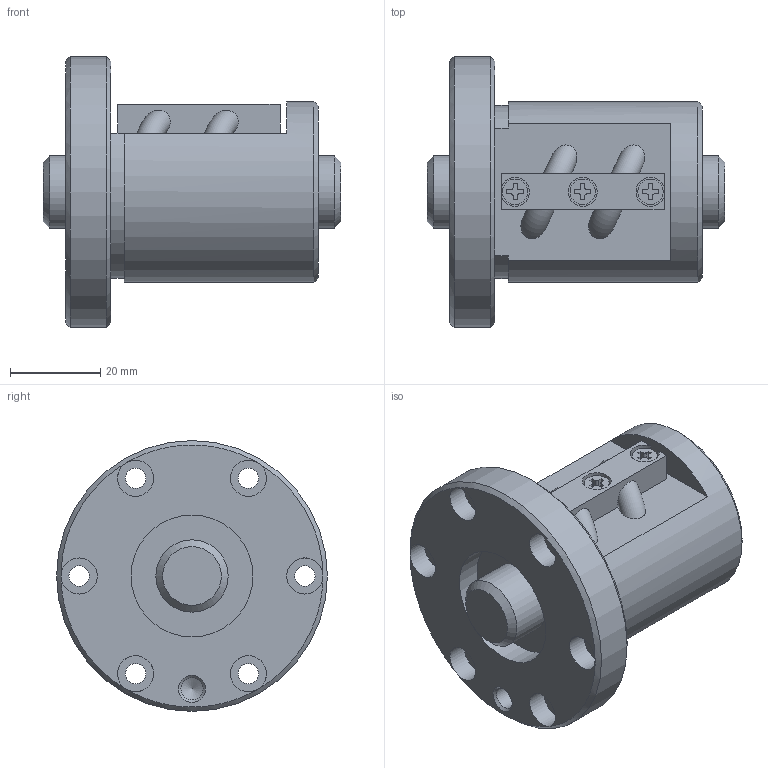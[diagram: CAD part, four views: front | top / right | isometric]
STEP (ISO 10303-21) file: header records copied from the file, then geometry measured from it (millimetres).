
FILE_DESCRIPTION(/* description */ ('STEP AP203'),/* implementation_level */ '2;1');
FILE_NAME(/* name */ 'SBN1605V-5G0+66LC0(0000)',/* time_stamp */ '2024-05-28T10:24:13+02:00',/* author */ ('License CC BY-ND 4.0'),/* organization */ ('CADENAS'),/* preprocessor_version */ 'ST-DEVELOPER v19.3',/* originating_system */ 'PARTsolutions',/* authorisation */ ' ');
FILE_SCHEMA (('CONFIG_CONTROL_DESIGN'));
Length unit declared in the file: millimetre
Products named in the file (3): SBN1605V-5G0+66LC0(0000); N010SBN1605V-50Shaft; N00SBN1605V-5Nut
Assembly tree (2 placements, depth 2):
  SBN1605V-5G0+66LC0(0000)
    N010SBN1605V-50Shaft
    N00SBN1605V-5Nut
Bounding box: 66 x 60 x 60 mm (x, y, z)
Volume: 77705.7 mm3; surface area: 21728.2 mm2
Topology: 2 solids, 2 shells, 121 faces, 295 edges, 192 vertices
Faces by surface type: plane 69, cylinder 41, cone 7, torus 4
Full cylindrical faces by diameter (mm): 4.5 x6, 4.8 x3, 4.917 x1, 5.6 x3, 6.4 x1, 8 x6, 16 x2, 27 x2, 40 x1, 60 x1
Entity records: 3493 total; most frequent: CARTESIAN_POINT 651, DIRECTION 588, ORIENTED_EDGE 508, EDGE_CURVE 254, AXIS2_PLACEMENT_3D 218, VERTEX_POINT 185, FACE_BOUND 183, EDGE_LOOP 182
